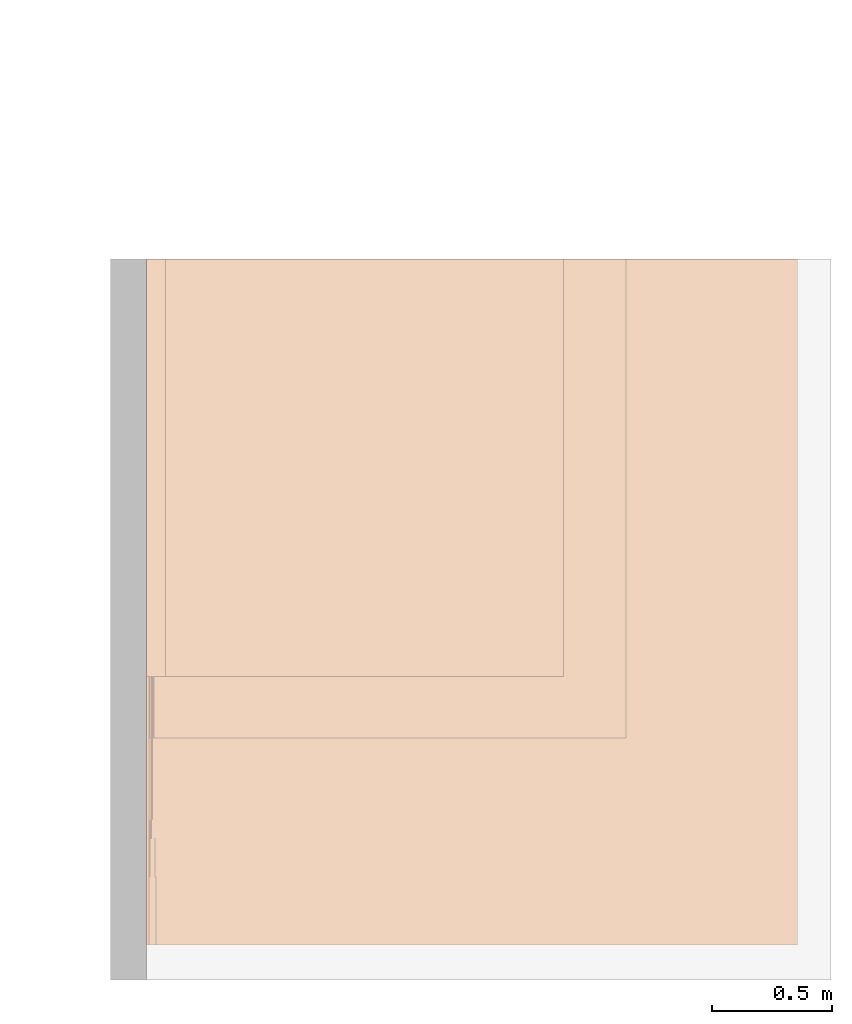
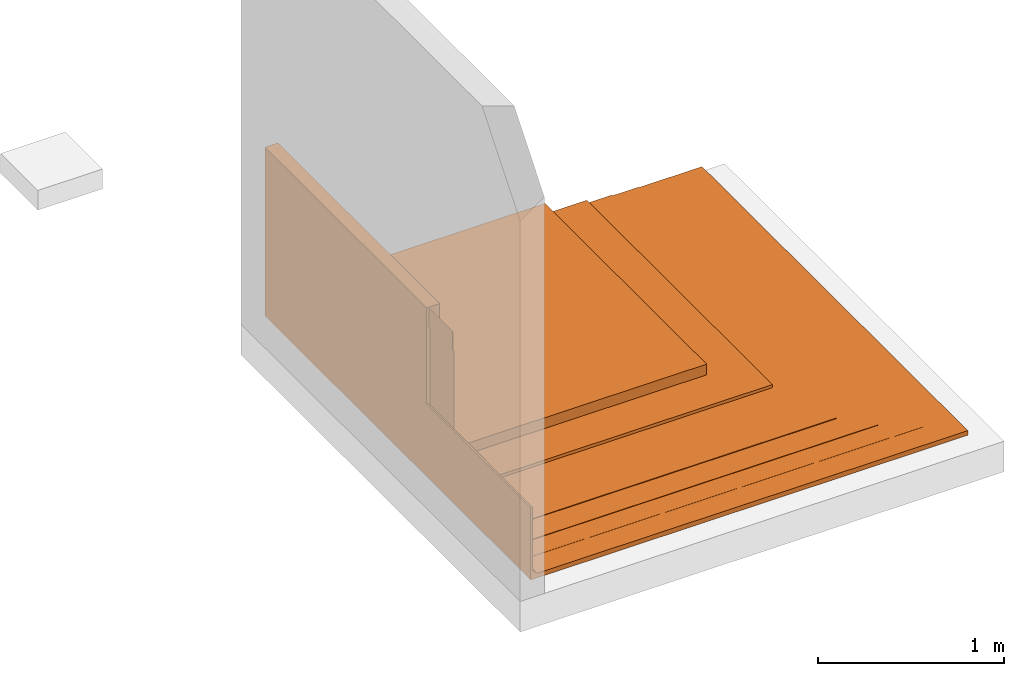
# One storey, part 2 of 2: 1 proxy.
"""IFC2X3 building model written with IfcOpenShell, lengths in metres."""

from ifc_helpers import new_model, entity, si_unit, converted_unit, derived_unit, direction, frame, frame_2d, origin, origin_2d_with_axis, place, context, subcontext, project, spatial, polyline, circle_curve, parameter, trimmed, segment, composite_curve, rectangle, outline, extrude, source, transform, mapped, material, material_list, type_object, type_shapes, element, save


model = new_model("IFC2X3")

# Units and contexts
model_context = context("Model", 3, precision=1e-05, world=origin(), true_north=direction((6.123031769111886e-17, 1.0)))
body_context = subcontext(model_context, "Body", "Model", "MODEL_VIEW")
ifc_project = project(units=[si_unit("LENGTHUNIT", "METRE"), si_unit("AREAUNIT", "SQUARE_METRE"), si_unit("VOLUMEUNIT", "CUBIC_METRE"), converted_unit("PLANEANGLEUNIT", "DEGREE", entity("IfcRatioMeasure", 0.017453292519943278), si_unit("PLANEANGLEUNIT", "RADIAN"), dimensions=[0, 0, 0, 0, 0, 0, 0]), si_unit("MASSUNIT", "GRAM", prefix="KILO"), derived_unit("MASSDENSITYUNIT", [(si_unit("MASSUNIT", "GRAM", prefix="KILO"), 1), (si_unit("LENGTHUNIT", "METRE"), -3)]), derived_unit("IONCONCENTRATIONUNIT", [(si_unit("MASSUNIT", "GRAM", prefix="KILO"), 1), (si_unit("LENGTHUNIT", "METRE"), -3)]), derived_unit("MOMENTOFINERTIAUNIT", [(si_unit("LENGTHUNIT", "METRE"), 4)]), si_unit("TIMEUNIT", "SECOND"), si_unit("FREQUENCYUNIT", "HERTZ"), si_unit("THERMODYNAMICTEMPERATUREUNIT", "DEGREE_CELSIUS"), derived_unit("THERMALTRANSMITTANCEUNIT", [(si_unit("MASSUNIT", "GRAM", prefix="KILO"), 1), (si_unit("THERMODYNAMICTEMPERATUREUNIT", "KELVIN"), -1), (si_unit("TIMEUNIT", "SECOND"), -3)]), derived_unit("THERMALCONDUCTANCEUNIT", [(si_unit("MASSUNIT", "GRAM", prefix="KILO"), 1), (si_unit("THERMODYNAMICTEMPERATUREUNIT", "KELVIN"), -1), (si_unit("TIMEUNIT", "SECOND"), -3), (si_unit("LENGTHUNIT", "METRE"), 1)]), derived_unit("VOLUMETRICFLOWRATEUNIT", [(si_unit("LENGTHUNIT", "METRE"), 3), (si_unit("TIMEUNIT", "SECOND"), -1)]), derived_unit("MASSFLOWRATEUNIT", [(si_unit("MASSUNIT", "GRAM", prefix="KILO"), 1), (si_unit("TIMEUNIT", "SECOND"), -1)]), derived_unit("ROTATIONALFREQUENCYUNIT", [(si_unit("TIMEUNIT", "SECOND"), -1)]), si_unit("ELECTRICCURRENTUNIT", "AMPERE"), si_unit("ELECTRICVOLTAGEUNIT", "VOLT"), si_unit("POWERUNIT", "WATT"), si_unit("FORCEUNIT", "NEWTON", prefix="KILO"), si_unit("ILLUMINANCEUNIT", "LUX"), si_unit("LUMINOUSFLUXUNIT", "LUMEN"), si_unit("LUMINOUSINTENSITYUNIT", "CANDELA"), derived_unit("USERDEFINED", [(si_unit("MASSUNIT", "GRAM", prefix="KILO"), -1), (si_unit("LENGTHUNIT", "METRE"), -2), (si_unit("TIMEUNIT", "SECOND"), 3), (si_unit("LUMINOUSFLUXUNIT", "LUMEN"), 1)]), derived_unit("USERDEFINED", [(si_unit("MASSUNIT", "GRAM", prefix="KILO"), 1), (si_unit("TIMEUNIT", "SECOND"), -3), (si_unit("LENGTHUNIT", "METRE"), 3), (si_unit("ELECTRICCURRENTUNIT", "AMPERE"), -2)]), derived_unit("SOUNDPOWERUNIT", [(si_unit("MASSUNIT", "GRAM", prefix="KILO"), 1), (si_unit("TIMEUNIT", "SECOND"), -3), (si_unit("LENGTHUNIT", "METRE"), 2)]), derived_unit("SOUNDPRESSUREUNIT", [(si_unit("MASSUNIT", "GRAM", prefix="KILO"), 1), (si_unit("LENGTHUNIT", "METRE"), -1), (si_unit("TIMEUNIT", "SECOND"), -2)]), derived_unit("LINEARVELOCITYUNIT", [(si_unit("LENGTHUNIT", "METRE"), 1), (si_unit("TIMEUNIT", "SECOND"), -1)]), si_unit("PRESSUREUNIT", "PASCAL"), derived_unit("USERDEFINED", [(si_unit("MASSUNIT", "GRAM", prefix="KILO"), 1), (si_unit("LENGTHUNIT", "METRE"), -2), (si_unit("TIMEUNIT", "SECOND"), -2)]), derived_unit("LINEARFORCEUNIT", [(si_unit("MASSUNIT", "GRAM", prefix="KILO"), 1), (si_unit("TIMEUNIT", "SECOND"), -2)]), derived_unit("PLANARFORCEUNIT", [(si_unit("MASSUNIT", "GRAM", prefix="KILO"), 1), (si_unit("LENGTHUNIT", "METRE"), -1), (si_unit("TIMEUNIT", "SECOND"), -2)]), derived_unit("SPECIFICHEATCAPACITYUNIT", [(si_unit("THERMODYNAMICTEMPERATUREUNIT", "KELVIN"), -1), (si_unit("LENGTHUNIT", "METRE"), 2), (si_unit("TIMEUNIT", "SECOND"), -2)]), derived_unit("HEATINGVALUEUNIT", [(si_unit("LENGTHUNIT", "METRE"), 2), (si_unit("TIMEUNIT", "SECOND"), -2)]), derived_unit("VAPORPERMEABILITYUNIT", [(si_unit("LENGTHUNIT", "METRE"), -1), (si_unit("TIMEUNIT", "SECOND"), 1)]), derived_unit("DYNAMICVISCOSITYUNIT", [(si_unit("MASSUNIT", "GRAM", prefix="KILO"), 1), (si_unit("TIMEUNIT", "SECOND"), -1), (si_unit("LENGTHUNIT", "METRE"), -1)]), derived_unit("THERMALEXPANSIONCOEFFICIENTUNIT", [(si_unit("THERMODYNAMICTEMPERATUREUNIT", "KELVIN"), -1)]), derived_unit("MODULUSOFELASTICITYUNIT", [(si_unit("MASSUNIT", "GRAM", prefix="KILO"), 1), (si_unit("LENGTHUNIT", "METRE"), -1), (si_unit("TIMEUNIT", "SECOND"), -2)]), derived_unit("ISOTHERMALMOISTURECAPACITYUNIT", [(si_unit("LENGTHUNIT", "METRE"), 3), (si_unit("MASSUNIT", "GRAM", prefix="KILO"), -1)]), derived_unit("MOISTUREDIFFUSIVITYUNIT", [(si_unit("TIMEUNIT", "SECOND"), -1), (si_unit("LENGTHUNIT", "METRE"), 2)])], contexts=[model_context])

# Site, building, storey
site_placement = place(None, origin())
site = spatial("IfcSite", under=ifc_project, at=site_placement, Name="Default", CompositionType="ELEMENT")
building_placement = place(site_placement, origin())
building = spatial("IfcBuilding", under=site, at=building_placement, CompositionType="ELEMENT")
storey_placement = place(building_placement, frame((0.0, 0.0, -0.0025237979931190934)))
storey = spatial("IfcBuildingStorey", under=building, at=storey_placement, Name="ARQ Térreo", CompositionType="ELEMENT", Elevation=-0.0025237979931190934)

# Proxy
ifc_material_1 = material(Name="#argamassa")
ifc_material_2 = material(Name="#selante")
ifc_material_3 = material(Name="#proteção mecânica")
ifc_material_4 = material(Name="#camada amortecedora")
ifc_material_5 = material(Name="#Viapoxi Adesivo")
ifc_material_6 = material(Name="#Tela Plástica")
ifc_material_7 = material(Name="# Torodin 4mm - TIPO III - Classe A")
ifc_material_8 = material(Name="#Primer Adeflex")
ifc_material_list = material_list([ifc_material_1, ifc_material_2, ifc_material_3, ifc_material_4, ifc_material_5, ifc_material_6, ifc_material_7, ifc_material_8])
building_element_proxy_type = type_object("IfcBuildingElementProxyType", Name="IMPER:IMPER", PredefinedType="NOTDEFINED", material=ifc_material_list)
shared_shape = source(origin(), body_context, "Body", "SweptSolid", [
    extrude(rectangle(XDim=2.854111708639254, YDim=0.010000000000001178, at=frame_2d((0.0, -3.382710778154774e-17), x_axis=(1.0, 0.0))), frame((-0.3469704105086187, -1.2811858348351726, -0.0025237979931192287), z_axis=(0.0, 0.0, 1.0), x_axis=(0.0, -1.0, 0.0)), (0.0, 0.0, 1.0), 0.4752746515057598),
    extrude(rectangle(XDim=1.7372680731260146, YDim=0.020000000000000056, at=origin_2d_with_axis()), frame((-0.2619704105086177, -0.7227640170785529, 0.10730187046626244), z_axis=(0.0, 0.0, 1.0), x_axis=(0.0, -1.0, 0.0)), (0.0, 0.0, 1.0), 0.019999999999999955),
    extrude(outline(composite_curve([segment(polyline([(0.21586995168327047, -1.5093352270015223), (0.28586995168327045, -1.5093352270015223)]), True, "CONTINUOUS"), segment(polyline([(0.28586995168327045, -1.5093352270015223), (0.2858699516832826, 0.2018647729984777)]), True, "CONTINUOUS"), segment(polyline([(0.2858699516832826, 0.2018647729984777), (0.18082209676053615, 0.2018647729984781)]), True, "CONTINUOUS"), segment(trimmed(circle_curve(frame_2d((0.18082209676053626, 0.21161777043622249), x_axis=(0.0, -1.0)), 0.009752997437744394), [parameter(300.520300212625)], [parameter(0.0)], True, "PARAMETER"), False, "CONTINUOUS"), segment(polyline([(0.1724203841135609, 0.20666477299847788), (0.04569562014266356, 0.20666477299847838)]), True, "CONTINUOUS"), segment(trimmed(circle_curve(frame_2d((0.04569562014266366, 0.21641777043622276), x_axis=(0.0, -1.0)), 0.009752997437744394), [parameter(300.5203002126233)], [parameter(0.0)], True, "PARAMETER"), False, "CONTINUOUS"), segment(polyline([(0.03729390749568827, 0.21146477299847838), (-0.1123558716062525, 0.21146477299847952)]), True, "CONTINUOUS"), segment(polyline([(-0.1123558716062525, 0.21146477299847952), (-0.11235587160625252, 0.2084365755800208)]), True, "CONTINUOUS"), segment(polyline([(-0.11235587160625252, 0.2084365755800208), (-0.12153952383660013, 0.20843657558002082)]), True, "CONTINUOUS"), segment(polyline([(-0.12153952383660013, 0.20843657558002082), (-0.12957903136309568, 0.21647608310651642)]), True, "CONTINUOUS"), segment(polyline([(-0.12957903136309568, 0.21647608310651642), (-0.12957903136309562, 0.22647608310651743)]), True, "CONTINUOUS"), segment(polyline([(-0.12957903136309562, 0.22647608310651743), (-0.760956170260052, 0.22647608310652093)]), True, "CONTINUOUS"), segment(polyline([(-0.760956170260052, 0.22647608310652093), (-0.7609561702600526, 0.1464760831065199)]), True, "CONTINUOUS"), segment(polyline([(-0.7609561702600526, 0.1464760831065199), (0.2158699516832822, 0.14647608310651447)]), True, "CONTINUOUS"), segment(polyline([(0.2158699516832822, 0.14647608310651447), (0.23586995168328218, 0.1464760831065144)]), True, "CONTINUOUS"), segment(polyline([(0.23586995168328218, 0.1464760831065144), (0.23586995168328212, 0.12647608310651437)]), True, "CONTINUOUS"), segment(polyline([(0.23586995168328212, 0.12647608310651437), (0.21586995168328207, 0.12647608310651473)]), True, "CONTINUOUS"), segment(polyline([(0.21586995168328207, 0.12647608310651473), (0.21586995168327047, -1.5093352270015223)]), True, "CONTINUOUS")], self_intersect=False)), frame((-0.12549432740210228, -1.5913980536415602, 0.34317182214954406), z_axis=(0.0, 1.0, 0.0), x_axis=(0.0, 0.0, -1.0)), (0.0, 0.0, 1.0), 1.7372680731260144),
    extrude(outline(composite_curve([segment(polyline([(-0.011733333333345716, -1.2609592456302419), (0.00826666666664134, -1.2609592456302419)]), True, "CONTINUOUS"), segment(polyline([(0.00826666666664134, -1.2609592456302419), (0.008266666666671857, 0.5588520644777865)]), True, "CONTINUOUS"), segment(polyline([(0.008266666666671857, 0.5588520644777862), (0.003466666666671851, 0.5588520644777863)]), True, "CONTINUOUS"), segment(polyline([(0.003466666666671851, 0.5588520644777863), (0.0034666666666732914, 0.6939632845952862)]), True, "CONTINUOUS"), segment(trimmed(circle_curve(frame_2d((-0.011907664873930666, 0.6948520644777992), x_axis=(0.0, -1.0)), 0.015399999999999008), [parameter(86.69145144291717)], [parameter(179.3513847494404)], True, "PARAMETER"), True, "CONTINUOUS"), segment(polyline([(-0.011733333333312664, 0.7102510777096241), (-0.011733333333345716, -1.2609592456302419)]), True, "CONTINUOUS")], self_intersect=False)), frame((0.38288165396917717, -1.8470207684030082, 0.04556853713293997), z_axis=(0.0, 1.0, 0.0), x_axis=(0.0, 0.0, -1.0)), (0.0, 0.0, 1.0), 1.9928907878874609),
    extrude(outline(polyline([(-0.0008824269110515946, 5.2421376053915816e-05), (0.006204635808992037, 5.24213760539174e-05), (0.009908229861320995, 0.003756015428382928), (-0.0014613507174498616, 0.0037560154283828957), (-0.007955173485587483, -0.002737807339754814), (-0.005813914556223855, -0.004879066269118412), (-0.0008824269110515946, 5.2421376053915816e-05)])), frame((-0.33762013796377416, -2.191126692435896, 0.4630887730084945), z_axis=(0.0, 1.0, 0.0), x_axis=(-0.7071067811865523, 0.0, 0.7071067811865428)), (0.0, 0.0, 1.0), 2.3369967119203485),
    extrude(outline(composite_curve([segment(polyline([(0.00721894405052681, -0.3428229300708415), (0.00721894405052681, -0.44828655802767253)]), True, "CONTINUOUS"), segment(polyline([(0.00721894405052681, -0.44828655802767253), (0.008018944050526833, -0.44828655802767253)]), True, "CONTINUOUS"), segment(polyline([(0.008018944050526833, -0.44828655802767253), (0.008018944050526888, -0.3428229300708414)]), True, "CONTINUOUS"), segment(trimmed(circle_curve(frame_2d((-0.007534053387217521, -0.3428229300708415), x_axis=(1.0, 0.0)), 0.015552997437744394), [parameter(3.5622212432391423e-13)], [parameter(46.2607256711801)], True, "PARAMETER"), True, "CONTINUOUS"), segment(polyline([(0.003218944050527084, -0.33158599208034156), (0.0032189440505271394, -0.20769645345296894)]), True, "CONTINUOUS"), segment(trimmed(circle_curve(frame_2d((-0.01233405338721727, -0.2076964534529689), x_axis=(1.0, 0.0)), 0.015552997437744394), [parameter(359.9999999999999)], [parameter(46.26072567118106)], True, "PARAMETER"), True, "CONTINUOUS"), segment(polyline([(-0.001581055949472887, -0.19645951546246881), (-0.0015810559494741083, 0.4635404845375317)]), True, "CONTINUOUS"), segment(trimmed(circle_curve(frame_2d((-0.01951188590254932, 0.45265933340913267), x_axis=(1.0, 0.0)), 0.02097412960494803), [parameter(31.251065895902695)], [parameter(56.89660713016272)], True, "PARAMETER"), True, "CONTINUOUS"), segment(polyline([(-0.008056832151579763, 0.4702290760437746), (-0.00805683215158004, 0.5937614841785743)]), True, "CONTINUOUS"), segment(polyline([(-0.00805683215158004, 0.5937614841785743), (-0.008856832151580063, 0.5937614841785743)]), True, "CONTINUOUS"), segment(polyline([(-0.008856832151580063, 0.5937614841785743), (-0.008856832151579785, 0.46979016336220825)]), True, "CONTINUOUS"), segment(trimmed(circle_curve(frame_2d((-0.01951188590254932, 0.45265933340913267), x_axis=(1.0, 0.0)), 0.02017412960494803), [parameter(31.880834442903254)], [parameter(58.11916555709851)], True, "PARAMETER"), False, "CONTINUOUS"), segment(polyline([(-0.0023810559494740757, 0.46331438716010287), (-0.0023810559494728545, -0.19680660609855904)]), True, "CONTINUOUS"), segment(trimmed(circle_curve(frame_2d((-0.01233405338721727, -0.2076964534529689), x_axis=(1.0, 0.0)), 0.014752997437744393), [parameter(359.9999999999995)], [parameter(47.573614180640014)], True, "PARAMETER"), False, "CONTINUOUS"), segment(polyline([(0.0024189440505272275, -0.207696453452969), (0.002418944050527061, -0.33193308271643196)]), True, "CONTINUOUS"), segment(trimmed(circle_curve(frame_2d((-0.007534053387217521, -0.3428229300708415), x_axis=(1.0, 0.0)), 0.014752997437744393), [parameter(0.0)], [parameter(47.5736141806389)], True, "PARAMETER"), False, "CONTINUOUS")], self_intersect=False)), frame((-0.32957804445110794, -1.8470207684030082, 0.5051726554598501), z_axis=(0.0, -1.0, 0.0), x_axis=(1.0, 0.0, 0.0)), (0.0, 0.0, -1.0), 1.9928907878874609),
    extrude(outline(composite_curve([segment(trimmed(circle_curve(frame_2d((0.0022674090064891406, 0.139487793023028), x_axis=(1.0, 0.0)), 0.01939999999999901), [parameter(87.05229129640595)], [parameter(178.0434486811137)], True, "PARAMETER"), True, "CONTINUOUS"), segment(polyline([(-0.017121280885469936, 0.14015014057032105), (-0.01712128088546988, 0.03461426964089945)]), True, "CONTINUOUS"), segment(trimmed(circle_curve(frame_2d((-0.022874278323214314, 0.03461426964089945), x_axis=(1.0, 0.0)), 0.005752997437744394), [parameter(305.2941953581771)], [parameter(0.0)], True, "PARAMETER"), False, "CONTINUOUS"), segment(trimmed(circle_curve(frame_2d((-0.017750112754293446, 0.026156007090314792), x_axis=(1.0, 0.0)), 0.004171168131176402), [parameter(115.56840704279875)], [parameter(180.00000000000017)], True, "PARAMETER"), True, "CONTINUOUS"), segment(polyline([(-0.02192128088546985, 0.026156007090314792), (-0.021921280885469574, -0.10051220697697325)]), True, "CONTINUOUS"), segment(trimmed(circle_curve(frame_2d((-0.027674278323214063, -0.10051220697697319), x_axis=(1.0, 0.0)), 0.005752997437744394), [parameter(305.29419535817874)], [parameter(3.5622212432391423e-13)], True, "PARAMETER"), False, "CONTINUOUS"), segment(trimmed(circle_curve(frame_2d((-0.022550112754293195, -0.10897046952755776), x_axis=(1.0, 0.0)), 0.004171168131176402), [parameter(115.56840704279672)], [parameter(180.00000000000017)], True, "PARAMETER"), True, "CONTINUOUS"), segment(polyline([(-0.026721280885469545, -0.10897046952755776), (-0.026721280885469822, -0.2695378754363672)]), True, "CONTINUOUS"), segment(polyline([(-0.026721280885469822, -0.2695378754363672), (-0.022721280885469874, -0.2655378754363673)]), True, "CONTINUOUS"), segment(polyline([(-0.022721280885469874, -0.2655378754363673), (-0.022721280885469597, -0.1089139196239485)]), True, "CONTINUOUS"), segment(trimmed(circle_curve(frame_2d((-0.027674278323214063, -0.10051220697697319), x_axis=(1.0, 0.0)), 0.009752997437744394), [parameter(300.52030021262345)], [parameter(359.9999999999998)], True, "PARAMETER"), True, "CONTINUOUS"), segment(polyline([(-0.01792128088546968, -0.10051220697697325), (-0.017921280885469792, 0.026212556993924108)]), True, "CONTINUOUS"), segment(trimmed(circle_curve(frame_2d((-0.022874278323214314, 0.03461426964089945), x_axis=(1.0, 0.0)), 0.009752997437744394), [parameter(300.5203002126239)], [parameter(359.9999999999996)], True, "PARAMETER"), True, "CONTINUOUS"), segment(polyline([(-0.013121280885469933, 0.034614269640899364), (-0.013121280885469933, 0.14007789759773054)]), True, "CONTINUOUS"), segment(trimmed(circle_curve(frame_2d((0.0022674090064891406, 0.139487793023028), x_axis=(1.0, 0.0)), 0.015399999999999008), [parameter(86.69145144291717)], [parameter(177.80397525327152)], True, "PARAMETER"), False, "CONTINUOUS"), segment(polyline([(0.0031561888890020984, 0.15486212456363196), (0.13826740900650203, 0.15486212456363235)]), True, "CONTINUOUS"), segment(polyline([(0.13826740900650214, 0.15486212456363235), (0.138267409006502, 0.15886212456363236)]), True, "CONTINUOUS"), segment(polyline([(0.13826740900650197, 0.15886212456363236), (0.003265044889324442, 0.15886212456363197)]), True, "CONTINUOUS")], self_intersect=False)), frame((-0.31423781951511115, -2.184726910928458, 0.19696399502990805), z_axis=(0.0, 1.0, 0.0), x_axis=(1.0, 0.0, 0.0)), (0.0, 0.0, 1.0), 2.330596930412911),
    extrude(outline(composite_curve([segment(polyline([(-1.056000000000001, -0.006000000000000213), (1.6140000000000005, -0.006000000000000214)]), True, "CONTINUOUS"), segment(polyline([(1.6140000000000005, -0.006000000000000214), (1.6140000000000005, 0.02399999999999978)]), True, "CONTINUOUS"), segment(polyline([(1.614, 0.02399999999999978), (-1.0860000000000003, 0.023999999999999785)]), True, "CONTINUOUS"), segment(polyline([(-1.0860000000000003, 0.023999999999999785), (-1.0860000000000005, -0.03599999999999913)]), True, "CONTINUOUS"), segment(trimmed(circle_curve(frame_2d((-1.056000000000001, -0.03599999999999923), x_axis=(1.0, 0.0)), 0.029999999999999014), [parameter(90.0000000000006)], [parameter(179.99999999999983)], True, "PARAMETER"), False, "CONTINUOUS")], self_intersect=False)), frame((0.7440295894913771, -2.7082416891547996, 0.0214762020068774), z_axis=(0.0, 1.0, 0.0), x_axis=(1.0, 0.0, 0.0)), (0.0, 0.0, 1.0), 2.8541117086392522),
    extrude(outline(composite_curve([segment(polyline([(-0.6330418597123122, -0.08822236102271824), (-0.6330418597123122, 0.32161678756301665)]), True, "CONTINUOUS"), segment(polyline([(-0.6330418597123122, 0.32161678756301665), (-0.6340531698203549, 0.32161678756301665)]), True, "CONTINUOUS"), segment(polyline([(-0.6340531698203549, 0.32161678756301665), (-0.6340531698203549, -0.08741251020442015)]), True, "CONTINUOUS"), segment(trimmed(circle_curve(frame_2d((-0.604053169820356, -0.08741251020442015), x_axis=(1.0, 0.0)), 0.029999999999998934), [parameter(179.99999999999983)], [parameter(269.9999999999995)], True, "PARAMETER"), True, "CONTINUOUS"), segment(polyline([(-0.6040531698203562, -0.11741251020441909), (1.8717581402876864, -0.11741251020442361)]), True, "CONTINUOUS"), segment(polyline([(1.8717581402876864, -0.11741251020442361), (1.8717581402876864, -0.11638684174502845)]), True, "CONTINUOUS"), segment(polyline([(1.8717581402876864, -0.11638684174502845), (-0.6052730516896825, -0.11638684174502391)]), True, "CONTINUOUS"), segment(trimmed(circle_curve(frame_2d((-0.6040531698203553, -0.08741251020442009), x_axis=(1.0, 0.0)), 0.028999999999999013), [parameter(181.60024369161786)], [parameter(267.5891478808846)], True, "PARAMETER"), False, "CONTINUOUS")], self_intersect=False)), frame((0.2920827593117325, -2.558785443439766, 0.1448887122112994), z_axis=(0.0, -1.0, 0.0), x_axis=(1.0, 0.0, 0.0)), (0.0, 0.0, -1.0), 2.7046554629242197),
    extrude(outline(composite_curve([segment(polyline([(-0.30913416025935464, 0.038691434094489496), (-0.3091341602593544, 0.16535964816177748)]), True, "CONTINUOUS"), segment(polyline([(-0.3091341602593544, 0.16535964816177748), (-0.3131341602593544, 0.16935964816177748)]), True, "CONTINUOUS"), segment(polyline([(-0.3131341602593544, 0.16935964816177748), (-0.3131341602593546, 0.038691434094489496)]), True, "CONTINUOUS"), segment(trimmed(circle_curve(frame_2d((-0.3041629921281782, 0.038691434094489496), x_axis=(1.0, 0.0)), 0.008971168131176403), [parameter(179.99999999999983)], [parameter(237.23916923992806)], True, "PARAMETER"), True, "CONTINUOUS"), segment(trimmed(circle_curve(frame_2d((-0.3092871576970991, 0.03023317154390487), x_axis=(1.0, 0.0)), 0.0009529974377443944), [parameter(0.0)], [parameter(73.56892721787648)], True, "PARAMETER"), False, "CONTINUOUS"), segment(polyline([(-0.3083341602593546, 0.03023317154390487), (-0.30833416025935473, -0.07538013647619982)]), True, "CONTINUOUS"), segment(trimmed(circle_curve(frame_2d((-0.2841454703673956, -0.07464035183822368), x_axis=(1.0, 0.0)), 0.024199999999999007), [parameter(181.75178272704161)], [parameter(267.36082466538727)], True, "PARAMETER"), True, "CONTINUOUS"), segment(polyline([(-0.285259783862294, -0.09881468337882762), (1.8268263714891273, -0.09881468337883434)]), True, "CONTINUOUS"), segment(polyline([(1.8268263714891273, -0.09881468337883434), (1.8268263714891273, -0.09481468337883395)]), True, "CONTINUOUS"), segment(polyline([(1.8268263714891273, -0.09481468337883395), (-0.28312745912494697, -0.09481468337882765)]), True, "CONTINUOUS"), segment(trimmed(circle_curve(frame_2d((-0.2841454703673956, -0.07464035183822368), x_axis=(1.0, 0.0)), 0.020199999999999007), [parameter(181.91741264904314)], [parameter(272.8887359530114)], True, "PARAMETER"), False, "CONTINUOUS"), segment(polyline([(-0.3043341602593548, -0.07531622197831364), (-0.3043341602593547, 0.030233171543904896)]), True, "CONTINUOUS"), segment(trimmed(circle_curve(frame_2d((-0.3092871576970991, 0.03023317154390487), x_axis=(1.0, 0.0)), 0.004952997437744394), [parameter(4.0711099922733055e-13)], [parameter(53.98237944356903)], True, "PARAMETER"), True, "CONTINUOUS"), segment(trimmed(circle_curve(frame_2d((-0.3041629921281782, 0.038691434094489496), x_axis=(1.0, 0.0)), 0.004971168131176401), [parameter(180.00000000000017)], [parameter(243.58355014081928)], True, "PARAMETER"), False, "CONTINUOUS")], self_intersect=False)), frame((-0.027824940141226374, -2.265201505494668, 0.1321165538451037), z_axis=(0.0, -1.0, 0.0), x_axis=(1.0, 0.0, 0.0)), (0.0, 0.0, -1.0), 2.411071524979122),
    extrude(outline(composite_curve([segment(polyline([(-0.580900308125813, -0.013713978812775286), (-0.580900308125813, 0.09307849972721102)]), True, "CONTINUOUS"), segment(polyline([(-0.580900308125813, 0.09307849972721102), (-0.583900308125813, 0.096078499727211)]), True, "CONTINUOUS"), segment(polyline([(-0.583900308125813, 0.096078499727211), (-0.5839003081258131, -0.013757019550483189)]), True, "CONTINUOUS"), segment(trimmed(circle_curve(frame_2d((-0.5549116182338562, -0.012947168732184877), x_axis=(1.0, 0.0)), 0.028999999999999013), [parameter(181.60024369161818)], [parameter(267.5891478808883)], True, "PARAMETER"), True, "CONTINUOUS"), segment(polyline([(-0.5561315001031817, -0.041921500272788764), (1.720899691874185, -0.0419215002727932)]), True, "CONTINUOUS"), segment(polyline([(1.720899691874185, -0.0419215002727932), (1.720899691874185, -0.0389215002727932)]), True, "CONTINUOUS"), segment(polyline([(1.720899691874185, -0.0389215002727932), (-0.5560666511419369, -0.03892150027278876)]), True, "CONTINUOUS"), segment(trimmed(circle_curve(frame_2d((-0.554911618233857, -0.012947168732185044), x_axis=(1.0, 0.0)), 0.025999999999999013), [parameter(181.69005204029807)], [parameter(267.45383470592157)], True, "PARAMETER"), False, "CONTINUOUS")], self_intersect=False)), frame((0.24294120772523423, -2.425100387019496, 0.07042337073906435), z_axis=(0.0, -1.0, 0.0), x_axis=(1.0, 0.0, 0.0)), (0.0, 0.0, -1.0), 2.5709704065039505),
])
type_shapes(building_element_proxy_type, [shared_shape])
proxy_placement = place(storey_placement, frame((0.0, 0.0, 0.0025237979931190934)))
element("IfcBuildingElementProxy", 1, at=proxy_placement, inside=storey, type_object=building_element_proxy_type, material=ifc_material_list, Name="IMPER:IMPER:IMPER : IMPER:IMPER", ObjectType="IMPER:IMPER:IMPER : IMPER:IMPER", context=body_context, shape_type="MappedRepresentation", body=[
    mapped(shared_shape, transform((0.0, 0.0, 0.0), scale=1.0)),
])

save(model, "model.ifc")
